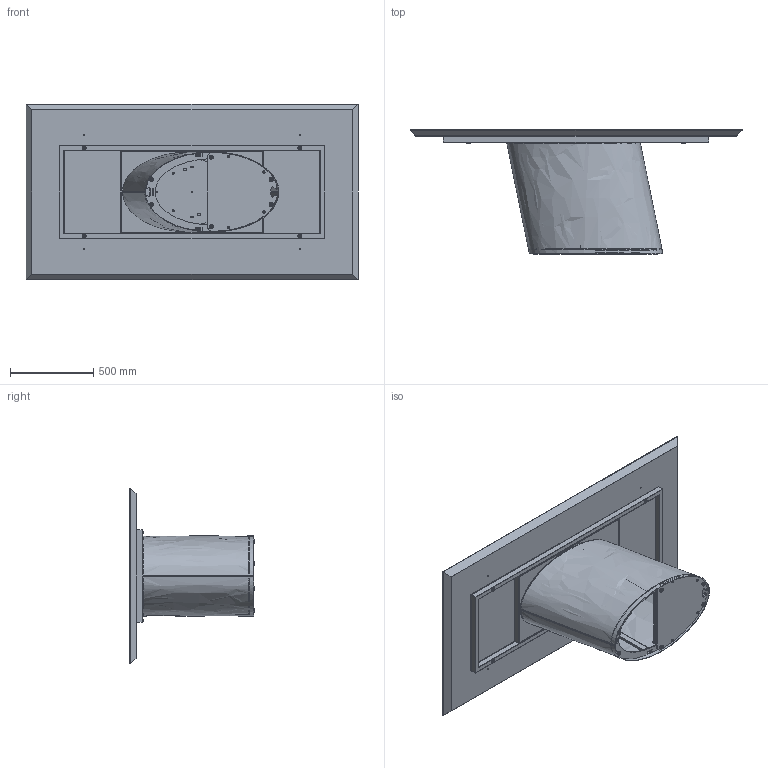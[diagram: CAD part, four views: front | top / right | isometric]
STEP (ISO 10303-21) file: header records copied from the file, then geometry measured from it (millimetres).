
FILE_DESCRIPTION (( 'STEP AP203' ), '1' );
FILE_NAME ('DO21W.STEP', '2024-08-06T13:09:44', ( '' ), ( '' ), 'SwSTEP 2.0', 'SolidWorks 2022', '' );
FILE_SCHEMA (( 'CONFIG_CONTROL_DESIGN' ));
Length unit declared in the file: millimetre
Products named in the file (21): DOB000000_07-00-lamiera guscio sx_Default<A macchina>; M8xXXmm_M8x55mm; DOB000000_05-00-Zavorra intenra del dorado_Default<A macchina>; barra filettata H.72cm_barra; TTAV01_02-05-VASSOIO IRRIGIDIMENTO TELAIO UNIVERSALE; DO21W; DOB000000_01-00-piastra superiore _Default<A macchina>; TTAV01_01-05-TELAIO UNIVERSALE X TAVOLI 180 240cm; DOB000000_03-00-Piastra  inferiore_Default<A macchina>; W2XCMXX-00-Piani Rettangolari in legno_2000 x 1060; DOB000000-00-DORADO BASE GREZZO; nut_M8_M8; TTAV01-05-TELAIO UNIVERSALE X TAVOLI 180 240cm; DOB000000_02-00-barra rettangoalre di supporto_Default<A macchina>; DOB000000_08-00-Zavorra inferiore_Default<A macchina>; rondella M8_8X24; M8xXXmm_M8X30mm; COLLO TELAIO UNIVERSALE TTAV01 CON FERRAMENTA_MTG TOP LEGNO-MARMO-KING; DOB000000_06-00-Lamiera guscio dx_Default<A macchina>; DOB000000_04-00-contrapesso filettato_Default<A macchina>; piedino dorado
Assembly tree (42 placements, depth 4):
  DO21W
    DOB000000-00-DORADO BASE GREZZO
      DOB000000_08-00-Zavorra inferiore_Default<A macchina>
      DOB000000_04-00-contrapesso filettato_Default<A macchina>
      DOB000000_05-00-Zavorra intenra del dorado_Default<A macchina>  x4
      DOB000000_01-00-piastra superiore _Default<A macchina>
      DOB000000_07-00-lamiera guscio sx_Default<A macchina>
      DOB000000_02-00-barra rettangoalre di supporto_Default<A macchina>  x4
      DOB000000_03-00-Piastra  inferiore_Default<A macchina>
      DOB000000_06-00-Lamiera guscio dx_Default<A macchina>
      M8xXXmm_M8X30mm  x4
      nut_M8_M8  x2
      piedino dorado  x6
      barra filettata H.72cm_barra  x2
    COLLO TELAIO UNIVERSALE TTAV01 CON FERRAMENTA_MTG TOP LEGNO-MARMO-KING
      TTAV01-05-TELAIO UNIVERSALE X TAVOLI 180 240cm
        TTAV01_02-05-VASSOIO IRRIGIDIMENTO TELAIO UNIVERSALE
        TTAV01_01-05-TELAIO UNIVERSALE X TAVOLI 180 240cm
      rondella M8_8X24  x4
      M8xXXmm_M8x55mm  x4
    W2XCMXX-00-Piani Rettangolari in legno_2000 x 1060
Bounding box: 2000 x 750 x 1060 mm (x, y, z)
Volume: 88981290.7 mm3; surface area: 11602895.9 mm2
Topology: 45 solids, 45 shells, 1288 faces, 3126 edges, 1923 vertices
Faces by surface type: cylinder 512, plane 452, cone 166, torus 124, bspline 26, sphere 8
Entity records: 29399 total; most frequent: CARTESIAN_POINT 8345, DIRECTION 3950, ORIENTED_EDGE 3672, EDGE_CURVE 1836, AXIS2_PLACEMENT_3D 1478, VERTEX_POINT 1173, LINE 994, VECTOR 994
